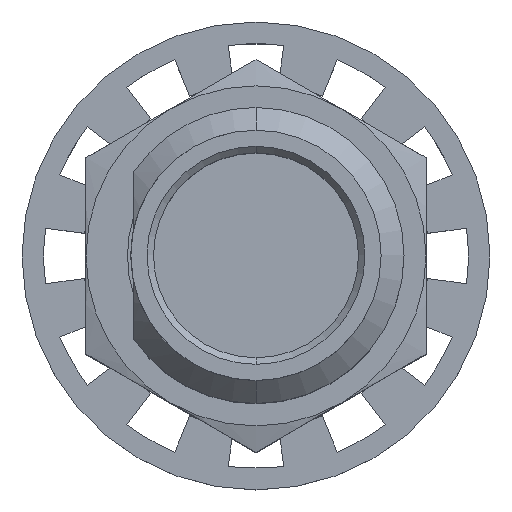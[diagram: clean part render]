
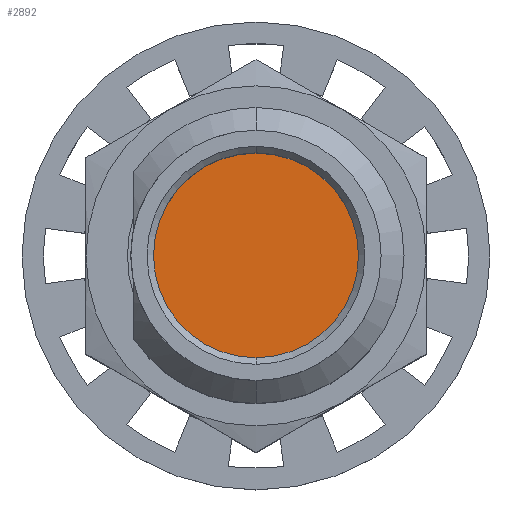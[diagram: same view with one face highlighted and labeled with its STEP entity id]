
A CAD part, top view. The second image highlights one B-rep face of the part: STEP entity #2892.
In plain terms, the highlighted planar face has unit normal (0, 0, 1).
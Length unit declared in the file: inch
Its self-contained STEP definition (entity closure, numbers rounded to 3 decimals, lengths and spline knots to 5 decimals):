
#61 = EDGE_CURVE ( 'NONE', #2547, #429, #2594, .T. ) ;
#147 = CARTESIAN_POINT ( 'NONE',  ( 0., 0.09415, 0.485 ) ) ;
#151 = EDGE_CURVE ( 'NONE', #429, #2547, #2448, .T. ) ;
#153 = AXIS2_PLACEMENT_3D ( 'NONE', #2367, #1917, #1172 ) ;
#315 = FACE_OUTER_BOUND ( 'NONE', #2785, .T. ) ;
#429 = VERTEX_POINT ( 'NONE', #147 ) ;
#758 = AXIS2_PLACEMENT_3D ( 'NONE', #4565, #1966, #3232 ) ;
#1172 = DIRECTION ( 'NONE',  ( 0., 1., 0. ) ) ;
#1717 = DIRECTION ( 'NONE',  ( 0., 0., -1. ) ) ;
#1835 = ORIENTED_EDGE ( 'NONE', *, *, #151, .F. ) ;
#1917 = DIRECTION ( 'NONE',  ( 0., 0., -1. ) ) ;
#1966 = DIRECTION ( 'NONE',  ( 0., 0., -1. ) ) ;
#2367 = CARTESIAN_POINT ( 'NONE',  ( 0., 0., 0.485 ) ) ;
#2448 = CIRCLE ( 'NONE', #758, 0.09415 ) ;
#2547 = VERTEX_POINT ( 'NONE', #5011 ) ;
#2551 = ORIENTED_EDGE ( 'NONE', *, *, #61, .F. ) ;
#2594 = CIRCLE ( 'NONE', #153, 0.09415 ) ;
#2785 = EDGE_LOOP ( 'NONE', ( #1835, #2551 ) ) ;
#2892 = ADVANCED_FACE ( 'NONE', ( #315 ), #5190, .F. ) ;
#3232 = DIRECTION ( 'NONE',  ( 0., 1., 0. ) ) ;
#4332 = CARTESIAN_POINT ( 'NONE',  ( 0., 0.04725, 0.485 ) ) ;
#4565 = CARTESIAN_POINT ( 'NONE',  ( 0., 0., 0.485 ) ) ;
#4768 = DIRECTION ( 'NONE',  ( 0., 1., 0. ) ) ;
#5011 = CARTESIAN_POINT ( 'NONE',  ( 0., -0.09415, 0.485 ) ) ;
#5159 = AXIS2_PLACEMENT_3D ( 'NONE', #4332, #1717, #4768 ) ;
#5190 = PLANE ( 'NONE',  #5159 ) ;
